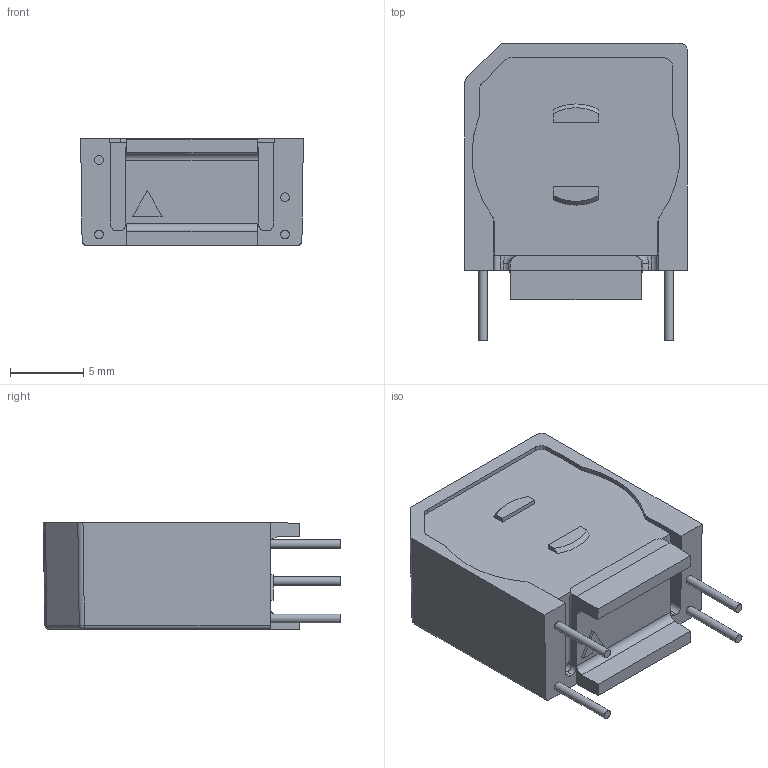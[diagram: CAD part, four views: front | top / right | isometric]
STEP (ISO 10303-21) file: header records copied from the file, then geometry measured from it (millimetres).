
FILE_DESCRIPTION(/* description */ (''),/* implementation_level */ '2;1');
FILE_NAME(/* name */ 'C:\SapWorkDir\Inventor\P01\ConvertTempPath\1013184_STP_000.ipt.stp',/* time_stamp */ '2019-02-27T11:40:04+01:00',/* author */ ('Christian.Ackermann'),/* organization */ ('Schaffner EMV AG'),/* preprocessor_version */ 'ST-DEVELOPER v16.5',/* originating_system */ 'Autodesk Inventor 2017',/* authorisation */ '');
FILE_SCHEMA (('AUTOMOTIVE_DESIGN { 1 0 10303 214 3 1 1 }'));
Length unit declared in the file: millimetre
Products named in the file (1): 819703
Bounding box: 15.2 x 20.3 x 7.3 mm (x, y, z)
Volume: 1650.4 mm3; surface area: 1091.3 mm2
Topology: 1 solids, 3 shells, 96 faces, 237 edges, 154 vertices
Faces by surface type: plane 53, cylinder 30, bspline 7, cone 6
Full cylindrical faces by diameter (mm): 0.6 x4
Entity records: 3175 total; most frequent: CARTESIAN_POINT 750, DIRECTION 478, ORIENTED_EDGE 466, EDGE_CURVE 233, AXIS2_PLACEMENT_3D 169, VERTEX_POINT 154, LINE 140, VECTOR 140
